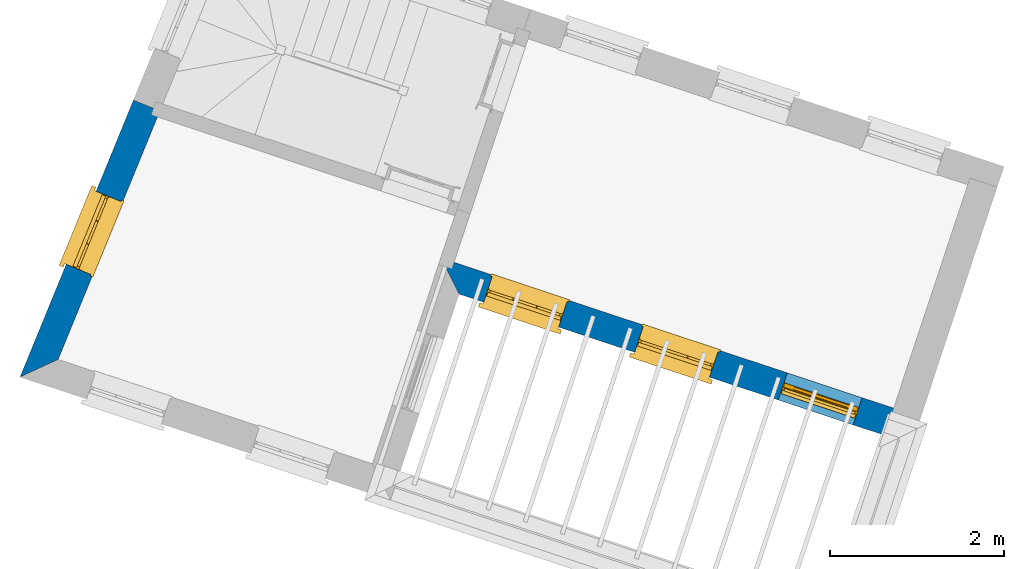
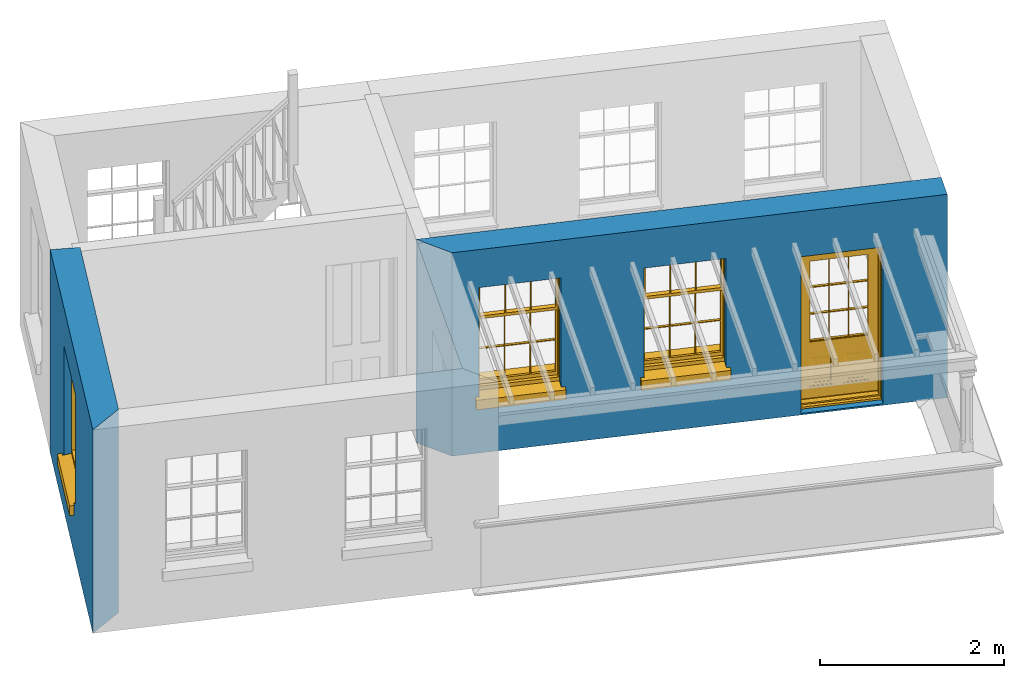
# One storey, part 3 of 6: 3 windows, 2 walls, 1 door, 4 openings.
"""IFC4 building model written with IfcOpenShell, lengths in metres."""

import ifcopenshell
import ifcopenshell.guid

model = None  # the IFC model being written
_history = None  # IfcOwnerHistory: only IFC2X3 demands one
_inside = {}  # id of a spatial element -> (the spatial element, [elements in it])
_under = {}  # id of a project, library or spatial element -> (it, [spatial elements below it])
_declared = {}  # id of a project -> (the project, [libraries it declares])
_typed = {}  # id of a type object -> (the type object, [elements of that type])
_made_of = {}  # id of a material, layer set ... -> (it, [elements and type objects made of it])


def new_model(schema):
    """Start an empty IFC model of exactly this schema.

    Asked for "IFC4X3", IfcOpenShell would pick the latest addendum, in which some entities
    have other attributes; the version numbers below select the first issue.
    IFC2X3 requires an IfcOwnerHistory on every rooted entity: one is made here for all.
    """
    global model, _history
    if schema == "IFC4X3":
        model = ifcopenshell.file(schema_version=(4, 3, 0, 0))
    else:
        model = ifcopenshell.file(schema=schema)
    _inside.clear()
    _under.clear()
    _declared.clear()
    _typed.clear()
    _made_of.clear()
    _history = None
    if model.schema == "IFC2X3":
        org = make("IfcOrganization", Name="unknown")
        user = make(
            "IfcPersonAndOrganization",
            ThePerson=make("IfcPerson", FamilyName="unknown"),
            TheOrganization=org,
        )
        app = make(
            "IfcApplication",
            ApplicationDeveloper=org,
            Version="unknown",
            ApplicationFullName="unknown",
            ApplicationIdentifier="unknown",
        )
        _history = make(
            "IfcOwnerHistory",
            OwningUser=user,
            OwningApplication=app,
            ChangeAction="ADDED",
            CreationDate=0,
        )
    return model


def make(cls, **values):
    """One entity of the class cls with the attributes given. An attribute that is None is left unset."""
    return model.create_entity(
        cls, **{name: value for name, value in values.items() if value is not None}
    )


def rooted(cls, **values):
    """An entity with a GlobalId (a new one), such as an element, a storey or a relation."""
    return make(cls, GlobalId=ifcopenshell.guid.new(), OwnerHistory=_history, **values)


def si_unit(unit_type, name, prefix=None):
    """IfcSIUnit, for example si_unit("LENGTHUNIT", "METRE", prefix="MILLI")."""
    return make("IfcSIUnit", UnitType=unit_type, Prefix=prefix, Name=name)


def assignment(units):
    """IfcUnitAssignment: the units of a project."""
    return None if units is None else make("IfcUnitAssignment", Units=units)


def point(xyz):
    """IfcCartesianPoint."""
    return None if xyz is None else make("IfcCartesianPoint", Coordinates=xyz)


def direction(xyz):
    """IfcDirection."""
    return None if xyz is None else make("IfcDirection", DirectionRatios=xyz)


def frame(location, z_axis=None, x_axis=None):
    """IfcAxis2Placement3D, a coordinate frame: its origin and axes. An axis left out is left unset."""
    return make(
        "IfcAxis2Placement3D",
        Location=point(location),
        Axis=direction(z_axis),
        RefDirection=direction(x_axis),
    )


def origin():
    """The frame at (0, 0, 0) with its axes left unset."""
    return frame((0.0, 0.0, 0.0))


def origin_with_axes():
    """The frame at (0, 0, 0) with the z axis (0, 0, 1) and the x axis (1, 0, 0) written out."""
    return frame((0.0, 0.0, 0.0), z_axis=(0.0, 0.0, 1.0), x_axis=(1.0, 0.0, 0.0))


def place(relative_to, where):
    """IfcLocalPlacement: puts the frame where relative to a parent placement (None: the world)."""
    return make(
        "IfcLocalPlacement", PlacementRelTo=relative_to, RelativePlacement=where
    )


def context(
    kind, dimensions, precision=None, world=None, true_north=None, identifier=None
):
    """IfcGeometricRepresentationContext, for example the 3D "Model" context."""
    return make(
        "IfcGeometricRepresentationContext",
        ContextIdentifier=identifier,
        ContextType=kind,
        CoordinateSpaceDimension=dimensions,
        Precision=precision,
        WorldCoordinateSystem=world,
        TrueNorth=true_north,
    )


def subcontext(parent, identifier, kind, view, scale=None):
    """IfcGeometricRepresentationSubContext, for example "Body" below "Model"."""
    return make(
        "IfcGeometricRepresentationSubContext",
        ContextIdentifier=identifier,
        ContextType=kind,
        ParentContext=parent,
        TargetScale=scale,
        TargetView=view,
    )


def project(units=None, contexts=None):
    """IfcProject with its units and contexts."""
    return rooted(
        "IfcProject",
        Name="project",
        RepresentationContexts=contexts,
        UnitsInContext=assignment(units),
    )


def spatial(cls, under=None, at=None, **own):
    """A site, building, storey or space (cls), placed at a placement, below another one or the project."""
    s = rooted(cls, ObjectPlacement=at, **own)
    if under is not None:
        _under.setdefault(under.id(), (under, []))[1].append(s)
    return s


def polyline(points):
    """IfcPolyline through the points."""
    return make("IfcPolyline", Points=[point(p) for p in points])


def outline(outer, holes=None, kind="AREA"):
    """IfcArbitraryClosedProfileDef: a profile drawn as a closed curve; with holes, ...WithVoids."""
    if holes is None:
        return make("IfcArbitraryClosedProfileDef", ProfileType=kind, OuterCurve=outer)
    return make(
        "IfcArbitraryProfileDefWithVoids",
        ProfileType=kind,
        OuterCurve=outer,
        InnerCurves=holes,
    )


def extrude(swept, where, along, depth):
    """IfcExtrudedAreaSolid: the profile swept, set in the frame where, extruded along a direction by depth."""
    return make(
        "IfcExtrudedAreaSolid",
        SweptArea=swept,
        Position=where,
        ExtrudedDirection=direction(along),
        Depth=depth,
    )


def faces_of(points, faces, orient=None, outer=None):
    """IfcFace entities. A face is a list of loops; a loop is a list of indices into points, from 0.

    orient and outer hold one flag for each loop. By default every Orientation is true, the
    first loop of a face is its IfcFaceOuterBound and the others are IfcFaceBound.
    """
    made = []
    for i, loops in enumerate(faces):
        bounds = []
        for j, loop in enumerate(loops):
            is_outer = j == 0 if outer is None else outer[i][j]
            bounds.append(
                make(
                    "IfcFaceOuterBound" if is_outer else "IfcFaceBound",
                    Bound=make("IfcPolyLoop", Polygon=[points[k] for k in loop]),
                    Orientation=True if orient is None else orient[i][j],
                )
            )
        made.append(make("IfcFace", Bounds=bounds))
    return made


def faceted_brep(points, faces, orient=None, outer=None, voids=None):
    """IfcFacetedBrep: a solid bounded by flat faces; with voids (closed shells), ...WithVoids."""
    shared = [point(p) for p in points]
    hull = make("IfcClosedShell", CfsFaces=faces_of(shared, faces, orient, outer))
    if voids is None:
        return make("IfcFacetedBrep", Outer=hull)
    return make(
        "IfcFacetedBrepWithVoids",
        Outer=hull,
        Voids=[
            make(cls, CfsFaces=faces_of(shared, fs, o, b)) for cls, fs, o, b in voids
        ],
    )


def shape(context_of_items, identifier, shape_type, items):
    """IfcShapeRepresentation: the items that make up one representation, for example the "Body"."""
    return make(
        "IfcShapeRepresentation",
        ContextOfItems=context_of_items,
        RepresentationIdentifier=identifier,
        RepresentationType=shape_type,
        Items=items,
    )


def source(mapping_origin, context_of_items, identifier, shape_type, items):
    """IfcRepresentationMap: a shape defined once, which mapped items show again and again."""
    return make(
        "IfcRepresentationMap",
        MappingOrigin=mapping_origin,
        MappedRepresentation=shape(context_of_items, identifier, shape_type, items),
    )


def transform(
    local_origin,
    x_axis=None,
    y_axis=None,
    z_axis=None,
    scale=None,
    scale2=None,
    scale3=None,
    uniform=True,
):
    """IfcCartesianTransformationOperator3D, or its non-uniform kind. x_axis, y_axis, z_axis: its Axis1, 2, 3."""
    if uniform:
        return make(
            "IfcCartesianTransformationOperator3D",
            Axis1=direction(x_axis),
            Axis2=direction(y_axis),
            LocalOrigin=point(local_origin),
            Scale=scale,
            Axis3=direction(z_axis),
        )
    return make(
        "IfcCartesianTransformationOperator3DnonUniform",
        Axis1=direction(x_axis),
        Axis2=direction(y_axis),
        LocalOrigin=point(local_origin),
        Scale=scale,
        Axis3=direction(z_axis),
        Scale2=scale2,
        Scale3=scale3,
    )


def mapped(mapping_source, mapping_target):
    """IfcMappedItem: shows the shape of a source again, moved by a transform."""
    return make(
        "IfcMappedItem", MappingSource=mapping_source, MappingTarget=mapping_target
    )


def material(Name=None, Category=None):
    """IfcMaterial."""
    return make("IfcMaterial", Name=Name, Category=Category)


def layer(
    of_material, thickness, ventilated=None, Name=None, Category=None, Priority=None
):
    """IfcMaterialLayer: one layer of a wall or slab, of a material (None: an air gap)."""
    return make(
        "IfcMaterialLayer",
        Material=of_material,
        LayerThickness=thickness,
        IsVentilated=ventilated,
        Name=Name,
        Category=Category,
        Priority=Priority,
    )


def layer_set(layers, Name=None):
    """IfcMaterialLayerSet."""
    return make("IfcMaterialLayerSet", MaterialLayers=layers, LayerSetName=Name)


def layer_usage(for_layer_set, set_direction, sense, offset, extent=None):
    """IfcMaterialLayerSetUsage: how a layer set lies in its element."""
    return make(
        "IfcMaterialLayerSetUsage",
        ForLayerSet=for_layer_set,
        LayerSetDirection=set_direction,
        DirectionSense=sense,
        OffsetFromReferenceLine=offset,
        ReferenceExtent=extent,
    )


def made_of(thing, what):
    """Note that an element or type object is made of a material, layer set ...; save() writes the relation."""
    if what is not None:
        _made_of.setdefault(what.id(), (what, []))[1].append(thing)
    return thing


def type_object(cls, material=None, **own):
    """A type object (cls), such as IfcWallType, which elements share."""
    return made_of(rooted(cls, **own), material)


def type_shapes(of_type, sources):
    """Give a type object the sources (RepresentationMaps) that its elements show as mapped items."""
    of_type.RepresentationMaps = sources


def element(
    cls,
    number,
    at=None,
    inside=None,
    cuts=None,
    type_object=None,
    material=None,
    context=None,
    identifier="Body",
    shape_type=None,
    held_by="IfcProductDefinitionShape",
    body=None,
    shapes=None,
    **own,
):
    """One element of the class cls, such as IfcWall. Its Tag is "e" and its number.

    at: its placement. inside: the storey or other place that contains it. cuts: it is an
    opening in that element (IfcRelVoidsElement). A single representation is given by context,
    identifier, shape_type and body (its items); several are given by shapes. held_by: the class
    of the entity that holds the representations. save() writes the other relations.
    """
    e = rooted(cls, Tag="e%d" % number, ObjectPlacement=at, **own)
    if body is not None:
        shapes = [shape(context, identifier, shape_type, body)]
    if shapes is not None:
        e.Representation = make(held_by, Representations=shapes)
    if inside is not None:
        _inside.setdefault(inside.id(), (inside, []))[1].append(e)
    if cuts is not None:
        rooted(
            "IfcRelVoidsElement", RelatingBuildingElement=cuts, RelatedOpeningElement=e
        )
    if type_object is not None:
        _typed.setdefault(type_object.id(), (type_object, []))[1].append(e)
    return made_of(e, material)


def fill(opening, filler):
    """IfcRelFillsElement: the door or window that sits in an opening."""
    return rooted(
        "IfcRelFillsElement",
        RelatingOpeningElement=opening,
        RelatedBuildingElement=filler,
    )


def aggregate(whole, parts):
    """IfcRelAggregates: a whole, such as a stair, and the parts it consists of."""
    return rooted("IfcRelAggregates", RelatingObject=whole, RelatedObjects=parts)


def save(model, path):
    """Write the relations noted so far, then the file.

    IfcRelAggregates (storeys below a building ...), IfcRelContainedInSpatialStructure (elements
    in a storey), IfcRelDefinesByType, IfcRelAssociatesMaterial and IfcRelDeclares: one each for
    every whole, place, type object, material and project.
    """
    for whole, parts in _under.values():
        aggregate(whole, parts)
    for where, things in _inside.values():
        rooted(
            "IfcRelContainedInSpatialStructure",
            RelatedElements=things,
            RelatingStructure=where,
        )
    for kind, things in _typed.values():
        rooted("IfcRelDefinesByType", RelatedObjects=things, RelatingType=kind)
    for what, things in _made_of.values():
        rooted("IfcRelAssociatesMaterial", RelatedObjects=things, RelatingMaterial=what)
    for by, libraries in _declared.values():
        rooted("IfcRelDeclares", RelatingContext=by, RelatedDefinitions=libraries)
    model.write(path)


model = new_model("IFC4")

# Units and contexts
model_context = context("Model", 3, world=origin_with_axes())
body_context = subcontext(model_context, "Body", "Model", "MODEL_VIEW")
ifc_project = project(units=[si_unit("PLANEANGLEUNIT", "RADIAN"), si_unit("MASSUNIT", "GRAM", prefix="KILO"), si_unit("FORCEUNIT", "NEWTON", prefix="KILO"), si_unit("LENGTHUNIT", "METRE"), si_unit("AREAUNIT", "SQUARE_METRE"), si_unit("VOLUMEUNIT", "CUBIC_METRE")], contexts=[model_context, model_context])

# Sites, building, storey
site_1_placement = place(None, origin_with_axes())
site_1 = spatial("IfcSite", under=ifc_project, at=site_1_placement, Name="Tamar")
site_2_placement = place(site_1_placement, origin_with_axes())
site_2 = spatial("IfcSite", under=site_1, at=site_2_placement, Name="Site plot-16", CompositionType="ELEMENT")
building_placement = place(None, origin_with_axes())
building = spatial("IfcBuilding", under=site_2, at=building_placement, Name="Building plot-16", CompositionType="ELEMENT")
storey_placement = place(None, frame((0.0, 0.0, 29.45), z_axis=(0.0, 0.0, 1.0), x_axis=(1.0, 0.0, 0.0)))
storey = spatial("IfcBuildingStorey", under=building, at=storey_placement, Name="plot-16 1", CompositionType="ELEMENT", Elevation=29.45)

# Wall, opening, window
ifc_material = material(Name="Masonry")
ifc_layer = layer(ifc_material, 0.33, ventilated=False)
ifc_layer_set = layer_set([ifc_layer], Name="exterior_0.08_0.25")
ifc_layer_usage = layer_usage(ifc_layer_set, "AXIS2", "POSITIVE", -0.25)
wall_type = type_object("IfcWallType", Name="exterior_0.08_0.25", PredefinedType="SOLIDWALL", material=ifc_layer_set)
wall_1_placement = place(storey_placement, frame((253.743066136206, 297.654043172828, 0.0), z_axis=(0.0, 0.0, 1.0), x_axis=(-0.378975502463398, -0.925406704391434, 0.0)))
wall_1 = element("IfcWall", 1, at=wall_1_placement, inside=storey, type_object=wall_type, material=ifc_layer_usage, Name="exterior", context=body_context, shape_type="SweptSolid", body=[
    extrude(outline(polyline([(-2.28843251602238e-15, 0.0800000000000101), (1.68064262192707e-15, -0.249999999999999), (3.44951576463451, -0.250000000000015), (3.0962088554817, 0.0800000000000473), (-2.28843251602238e-15, 0.0800000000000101)])), origin_with_axes(), (0.0, 0.0, 1.0), 2.7),
])
opening_1_placement = place(wall_1_placement, frame((1.13592950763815, 0.0, 0.75)))
opening_1 = element("IfcOpeningElement", 2, at=opening_1_placement, cuts=wall_1, Name="My Opening", ObjectType="Opening", context=body_context, shape_type="SweptSolid", body=[
    extrude(outline(polyline([(0.0, -0.269999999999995), (0.910000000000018, -0.269999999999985), (0.909999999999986, 1.1), (-3.30846461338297e-14, 1.09999999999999), (0.0, -0.269999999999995)])), origin_with_axes(), (0.0, 0.0, 1.0), 1.445),
])
window_type = type_object("IfcWindowType", Name="sash_shorter", PartitioningType="DOUBLE_PANEL_HORIZONTAL", PredefinedType="NOTDEFINED")
shared_shape_1 = source(origin(), body_context, "Body", "Brep", [
    faceted_brep([(0.876875, 0.145, 0.999097), (0.876875, 0.145, 1.411875), (0.9, 0.145, 1.435), (0.033125, 0.145, 1.411875), (0.033125, 0.145, 0.999097), (0.01, 0.145, 1.435), (0.033125, 0.115, 1.411875), (0.01, 0.115, 1.435), (0.033125, 0.115, 0.999097), (0.876875, 0.115, 1.411875), (0.876875, 0.115, 0.999097), (0.9, 0.115, 1.435), (0.033125, 0.145, 0.960972), (0.01, 0.145, 0.960972), (0.033125, 0.145, 0.548195), (0.876875, 0.145, 0.960972), (0.876875, 0.145, 0.548195), (0.9, 0.145, 0.960972), (0.876875, 0.145, 0.538195), (0.876875, 0.145, 0.125417), (0.9, 0.145, 0.077167), (0.033125, 0.145, 0.125417), (0.033125, 0.145, 0.538195), (0.01, 0.145, 0.077167), (0.9, 0.115, 0.960972), (0.01, 0.115, 0.960972), (-0.0425, 0.0, 0.01), (-0.0425, -0.05, 0.001667), (0.0, 0.0, 0.01), (0.9525, 0.0, 0.01), (0.91, 0.0, 0.01), (0.9525, -0.05, 0.001667), (-0.02, 0.33, 0.077167), (0.0, 0.33, 0.077167), (-0.02, 0.36, 0.077167), (0.0, 0.19, 0.077167), (0.01, 0.19, 0.077167), (0.91, 0.19, 0.077167), (0.91, 0.33, 0.077167), (0.9, 0.19, 0.077167), (0.93, 0.33, 0.077167), (0.93, 0.36, 0.077167), (0.01, 0.145, 0.999097), (0.01, 0.175, 0.999097), (0.9, 0.145, 0.999097), (0.9, 0.175, 0.999097), (0.876875, 0.175, 0.125417), (0.876875, 0.175, 0.538195), (0.9, 0.175, 0.077167), (0.876875, 0.175, 0.548195), (0.876875, 0.175, 0.960972), (0.033125, 0.175, 0.125417), (0.01, 0.175, 0.077167), (0.033125, 0.175, 0.538195), (0.033125, 0.175, 0.960972), (0.033125, 0.175, 0.548195), (-0.02, 0.33, 0.052167), (-0.02, 0.36, 0.052167), (0.93, 0.36, 0.052167), (0.93, 0.33, 0.052167), (0.91, 0.33, 0.052167), (0.0, 0.33, 0.052167), (0.91, 0.1, 0.026667), (0.0, 0.1, 0.026667), (-0.0425, -0.05, -0.123333), (0.9525, -0.05, -0.123333), (-0.0425, 0.0, -0.123333), (0.9525, 0.0, -0.123333), (0.01, 0.19, 1.435), (0.9, 0.19, 1.435), (0.0, 0.19, 1.445), (0.91, 0.19, 1.445), (0.01, 0.1, 0.077167), (0.9, 0.1, 0.077167), (0.592292, 0.145, 0.125417), (0.592292, 0.175, 0.125417), (0.317708, 0.175, 0.125417), (0.317708, 0.145, 0.125417), (0.592292, 0.145, 0.548195), (0.317708, 0.145, 0.548195), (0.317708, 0.145, 0.538195), (0.592292, 0.145, 0.538195), (0.592292, 0.175, 0.548195), (0.317708, 0.175, 0.548195), (0.602292, 0.175, 0.548195), (0.602292, 0.145, 0.548195), (0.317708, 0.175, 0.538195), (0.307708, 0.175, 0.125417), (0.307708, 0.175, 0.538195), (0.602292, 0.175, 0.538195), (0.602292, 0.175, 0.125417), (0.592292, 0.175, 0.538195), (0.307708, 0.175, 0.548195), (0.317708, 0.175, 0.960972), (0.307708, 0.175, 0.960972), (0.602292, 0.175, 0.960972), (0.592292, 0.175, 0.960972), (0.307708, 0.145, 0.538195), (0.307708, 0.145, 0.125417), (0.307708, 0.145, 0.548195), (0.307708, 0.145, 0.960972), (0.592292, 0.145, 0.960972), (0.317708, 0.145, 0.960972), (0.602292, 0.145, 0.960972), (0.602292, 0.145, 0.538195), (0.602292, 0.145, 0.125417), (0.317708, 0.115, 1.411875), (0.307708, 0.115, 1.411875), (0.307708, 0.115, 0.999097), (0.317708, 0.115, 0.999097), (0.602292, 0.115, 1.411875), (0.592292, 0.115, 1.411875), (0.592292, 0.115, 0.999097), (0.602292, 0.115, 0.999097), (0.317708, 0.145, 0.999097), (0.307708, 0.145, 0.999097), (0.307708, 0.145, 1.411875), (0.317708, 0.145, 1.411875), (0.602292, 0.145, 0.999097), (0.592292, 0.145, 0.999097), (0.592292, 0.145, 1.411875), (0.602292, 0.145, 1.411875), (0.91, 0.1, 1.445), (0.9, 0.1, 1.435), (0.01, 0.1, 1.435), (0.0, 0.1, 1.445), (0.91, 0.0, 0.0), (0.0, 0.0, 0.0), (0.91, 0.33, 0.0), (0.0, 0.33, 0.0)], [[[0, 1, 2]], [[3, 4, 5]], [[6, 7, 8]], [[9, 10, 11]], [[12, 13, 14]], [[15, 16, 17]], [[18, 19, 20]], [[21, 22, 23]], [[24, 15, 17]], [[13, 12, 25]], [[26, 27, 28]], [[29, 30, 31]], [[32, 33, 34]], [[35, 36, 33]], [[37, 38, 39]], [[40, 41, 38]], [[42, 4, 43]], [[44, 45, 0]], [[46, 47, 48]], [[49, 50, 45]], [[51, 52, 53]], [[54, 55, 43]], [[38, 33, 36, 39]], [[41, 34, 33, 38]], [[56, 32, 34, 57]], [[57, 34, 41, 58]], [[58, 41, 40, 59]], [[57, 58, 60, 61]], [[52, 48, 39, 36]], [[62, 63, 28, 30]], [[27, 31, 30, 28]], [[27, 64, 65, 31]], [[66, 67, 65, 64]], [[2, 5, 68, 69]], [[68, 70, 71, 69]], [[20, 23, 72, 73]], [[73, 72, 63, 62]], [[74, 75, 76, 77]], [[78, 79, 80, 81]], [[78, 82, 83, 79]], [[16, 49, 84, 85]], [[86, 76, 87, 88]], [[89, 90, 75, 91]], [[92, 88, 53, 55]], [[82, 91, 86, 83]], [[93, 83, 92, 94]], [[95, 84, 82, 96]], [[89, 84, 49, 47]], [[97, 88, 87, 98]], [[22, 53, 88, 97]], [[81, 91, 75, 74]], [[80, 86, 91, 81]], [[77, 76, 86, 80]], [[99, 92, 55, 14]], [[100, 94, 92, 99]], [[101, 96, 82, 78]], [[79, 83, 93, 102]], [[85, 84, 95, 103]], [[104, 89, 47, 18]], [[105, 90, 89, 104]], [[104, 18, 16, 85]], [[80, 97, 98, 77]], [[104, 81, 74, 105]], [[103, 101, 78, 85]], [[99, 14, 22, 97]], [[102, 100, 99, 79]], [[106, 107, 108, 109]], [[110, 111, 112, 113]], [[114, 115, 116, 117]], [[118, 119, 120, 121]], [[107, 116, 115, 108]], [[111, 120, 119, 112]], [[109, 114, 117, 106]], [[113, 118, 121, 110]], [[85, 78, 81, 104]], [[84, 89, 91, 82]], [[83, 86, 88, 92]], [[79, 99, 97, 80]], [[109, 112, 119, 114]], [[102, 93, 96, 101]], [[106, 117, 120, 111]], [[98, 87, 51, 21]], [[6, 3, 116, 107]], [[110, 121, 1, 9]], [[19, 46, 90, 105]], [[26, 66, 64, 27]], [[29, 31, 65, 67]], [[25, 24, 112, 109]], [[11, 7, 106, 111]], [[75, 48, 52, 76]], [[43, 45, 96, 93]], [[45, 43, 114, 119]], [[5, 2, 120, 117]], [[24, 25, 102, 101]], [[42, 5, 4]], [[2, 44, 0]], [[49, 45, 48, 47]], [[52, 43, 55, 53]], [[14, 13, 23, 22]], [[20, 17, 16, 18]], [[24, 11, 10]], [[25, 8, 7]], [[8, 4, 3, 6]], [[9, 1, 0, 10]], [[15, 50, 49, 16]], [[18, 47, 46, 19]], [[21, 51, 53, 22]], [[14, 55, 54, 12]], [[44, 2, 69, 45]], [[68, 5, 42, 43]], [[36, 35, 70, 68]], [[39, 69, 71, 37]], [[62, 122, 123, 73]], [[63, 72, 124, 125]], [[8, 108, 115, 4]], [[113, 10, 0, 118]], [[94, 100, 12, 54]], [[17, 20, 73, 24]], [[72, 23, 13, 25]], [[52, 36, 68, 43]], [[69, 39, 48, 45]], [[11, 24, 73, 123]], [[7, 124, 72, 25]], [[23, 77, 98]], [[98, 21, 23]], [[105, 74, 20]], [[20, 19, 105]], [[20, 74, 77, 23]], [[113, 112, 24]], [[24, 10, 113]], [[25, 109, 108]], [[108, 8, 25]], [[110, 9, 11]], [[11, 111, 110]], [[7, 6, 107]], [[107, 106, 7]], [[5, 117, 116]], [[116, 3, 5]], [[121, 120, 2]], [[2, 1, 121]], [[11, 123, 124, 7]], [[122, 125, 124, 123]], [[43, 93, 94]], [[94, 54, 43]], [[96, 45, 95]], [[50, 95, 45]], [[15, 103, 95, 50]], [[48, 75, 90]], [[90, 46, 48]], [[87, 76, 52]], [[52, 51, 87]], [[103, 15, 24]], [[24, 101, 103]], [[100, 102, 25]], [[25, 12, 100]], [[115, 114, 43]], [[43, 4, 115]], [[118, 0, 45]], [[45, 119, 118]], [[71, 70, 125, 122]], [[70, 35, 63, 125]], [[122, 62, 37, 71]], [[126, 67, 66, 127]], [[60, 58, 59]], [[38, 60, 59, 40]], [[61, 56, 57]], [[32, 56, 61, 33]], [[61, 60, 128, 129]], [[62, 60, 38, 37]], [[126, 128, 60, 62]], [[33, 61, 63, 35]], [[61, 129, 127, 63]], [[128, 126, 127, 129]], [[28, 127, 66, 26]], [[63, 127, 28]], [[29, 67, 126, 30]], [[30, 126, 62]]]),
])
type_shapes(window_type, [shared_shape_1])
window_1_placement = place(storey_placement, frame((253.0627168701, 296.705169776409, 0.75), z_axis=(0.0, 0.0, 1.0), x_axis=(-0.34486770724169, -0.842120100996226, 0.0)))
window_1 = element("IfcWindow", 3, at=window_1_placement, inside=storey, type_object=window_type, Name="bedroom outside window", OverallHeight=1.445, OverallWidth=0.91, context=body_context, shape_type="MappedRepresentation", body=[
    mapped(shared_shape_1, transform((0.0, 0.0, 0.0), scale=1.0)),
])
fill(opening_1, window_1)

# Wall, openings, door, windows
wall_2_placement = place(storey_placement, frame((257.105852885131, 295.828897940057, 0.0), z_axis=(0.0, 0.0, 1.0), x_axis=(0.949078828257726, -0.31503869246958, 0.0)))
wall_2 = element("IfcWall", 4, at=wall_2_placement, inside=storey, type_object=wall_type, material=ifc_layer_usage, Name="exterior", context=body_context, shape_type="SweptSolid", body=[
    extrude(outline(polyline([(-0.0799999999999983, 0.0799999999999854), (0.250000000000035, -0.250000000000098), (5.74899441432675, -0.250000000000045), (5.74899441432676, 0.0799999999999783), (-0.0799999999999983, 0.0799999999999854)])), origin_with_axes(), (0.0, 0.0, 1.0), 2.7),
])
opening_2_placement = place(wall_2_placement, frame((0.54999999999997, 0.0, 0.75)))
opening_2 = element("IfcOpeningElement", 5, at=opening_2_placement, cuts=wall_2, Name="My Opening", ObjectType="Opening", context=body_context, shape_type="SweptSolid", body=[
    extrude(outline(polyline([(0.0, -0.270000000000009), (0.910000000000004, -0.270000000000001), (0.909999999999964, 1.09999999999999), (-4.01900734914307e-14, 1.09999999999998), (0.0, -0.270000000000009)])), origin_with_axes(), (0.0, 0.0, 1.0), 1.445),
])
opening_3_placement = place(wall_2_placement, frame((2.3829981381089, 0.0, 0.75)))
opening_3 = element("IfcOpeningElement", 6, at=opening_3_placement, cuts=wall_2, Name="My Opening", ObjectType="Opening", context=body_context, shape_type="SweptSolid", body=[
    extrude(outline(polyline([(0.0, -0.270000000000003), (0.910000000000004, -0.269999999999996), (0.909999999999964, 1.09999999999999), (-3.99680288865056e-14, 1.09999999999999), (0.0, -0.270000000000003)])), origin_with_axes(), (0.0, 0.0, 1.0), 1.445),
])
opening_4_placement = place(wall_2_placement, frame((4.12749534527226, 0.0, 0.0199999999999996)))
opening_4 = element("IfcOpeningElement", 7, at=opening_4_placement, cuts=wall_2, Name="My Opening", ObjectType="Opening", context=body_context, shape_type="SweptSolid", body=[
    extrude(outline(polyline([(0.0, -0.270000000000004), (0.910000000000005, -0.269999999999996), (0.909999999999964, 1.09999999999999), (-3.90798504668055e-14, 1.09999999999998), (0.0, -0.270000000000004)])), origin_with_axes(), (0.0, 0.0, 1.0), 2.08),
])
door_type = type_object("IfcDoorType", Name="door_panelled", OperationType="SINGLE_SWING_LEFT", PredefinedType="NOTDEFINED")
shared_shape_2 = source(origin(), body_context, "Body", "Brep", [
    faceted_brep([(0.545, 0.195, 0.265), (0.745, 0.195, 0.265), (0.745, 0.2, 0.265), (0.545, 0.2, 0.265), (0.745, 0.2, 0.58), (0.545, 0.2, 0.58), (0.545, 0.195, 0.58), (0.515, 0.19, 0.235), (0.775, 0.19, 0.235), (0.745, 0.195, 0.58), (0.515, 0.19, 0.61), (0.515, 0.185, 0.235), (0.775, 0.185, 0.235), (0.775, 0.19, 0.61), (0.515, 0.185, 0.61), (0.785, 0.185, 0.225), (0.505, 0.185, 0.225), (0.775, 0.185, 0.61), (0.505, 0.185, 0.62), (0.785, 0.185, 0.62), (0.505, 0.18, 0.225), (0.785, 0.18, 0.225), (0.505, 0.18, 0.62), (0.785, 0.18, 0.62), (0.883, 0.18, 0.075), (0.898, 0.18, 0.075), (0.405, 0.18, 0.62), (0.405, 0.18, 0.225), (0.027, 0.18, 0.075), (0.785, 0.18, 0.82), (0.125, 0.18, 0.82), (0.405, 0.185, 0.62), (0.405, 0.185, 0.225), (0.898, 0.18, 2.068), (0.027, 0.17, 0.075), (0.883, 0.17, 0.075), (0.125, 0.18, 0.225), (0.012, 0.18, 0.075), (0.785, 0.19, 0.82), (0.125, 0.19, 0.82), (0.125, 0.18, 0.62), (0.125, 0.185, 0.62), (0.395, 0.185, 0.61), (0.395, 0.185, 0.235), (0.125, 0.185, 0.225), (0.785, 0.18, 1.895), (0.027, 0.14, 0.045), (0.883, 0.14, 0.045), (0.558333, 0.19, 0.83), (0.351667, 0.19, 0.83), (0.125, 0.18, 1.895), (0.125, 0.19, 1.895), (0.785, 0.19, 1.895), (0.012, 0.18, 2.068), (0.135, 0.185, 0.61), (0.395, 0.19, 0.61), (0.395, 0.19, 0.235), (0.135, 0.185, 0.235), (0.027, 0.14, 0.027), (0.883, 0.14, 0.027), (0.568333, 0.19, 0.83), (0.558333, 0.22, 0.83), (0.351667, 0.22, 0.83), (0.341667, 0.19, 0.83), (0.135, 0.19, 1.185), (0.135, 0.19, 1.53), (0.775, 0.19, 1.53), (0.775, 0.19, 1.185), (0.135, 0.19, 0.61), (0.365, 0.195, 0.58), (0.365, 0.195, 0.265), (0.135, 0.19, 0.235), (0.568333, 0.19, 1.175), (0.558333, 0.19, 1.175), (0.775, 0.19, 0.83), (0.558333, 0.22, 1.175), (0.785, 0.22, 0.82), (0.125, 0.22, 0.82), (0.351667, 0.22, 1.175), (0.351667, 0.19, 1.175), (0.341667, 0.19, 1.175), (0.135, 0.19, 0.83), (0.135, 0.19, 1.175), (0.135, 0.22, 1.185), (0.135, 0.22, 1.53), (0.135, 0.19, 1.54), (0.351667, 0.19, 1.885), (0.558333, 0.19, 1.885), (0.775, 0.22, 1.53), (0.775, 0.22, 1.185), (0.775, 0.19, 1.175), (0.775, 0.19, 1.54), (0.165, 0.195, 0.58), (0.365, 0.2, 0.58), (0.365, 0.2, 0.265), (0.165, 0.195, 0.265), (0.568333, 0.22, 0.83), (0.568333, 0.22, 1.175), (0.568333, 0.19, 1.185), (0.558333, 0.19, 1.185), (0.775, 0.22, 0.83), (0.785, 0.23, 0.82), (0.125, 0.23, 0.82), (0.341667, 0.22, 0.83), (0.341667, 0.22, 1.175), (0.351667, 0.19, 1.185), (0.341667, 0.19, 1.185), (0.135, 0.22, 0.83), (0.341667, 0.22, 1.185), (0.125, 0.22, 1.895), (0.341667, 0.22, 1.53), (0.341667, 0.19, 1.53), (0.135, 0.19, 1.885), (0.341667, 0.19, 1.54), (0.341667, 0.19, 1.885), (0.558333, 0.22, 1.885), (0.351667, 0.22, 1.885), (0.568333, 0.19, 1.885), (0.785, 0.22, 1.895), (0.568333, 0.22, 1.185), (0.568333, 0.19, 1.53), (0.568333, 0.22, 1.53), (0.568333, 0.19, 1.54), (0.775, 0.19, 1.885), (0.165, 0.2, 0.58), (0.165, 0.2, 0.265), (0.775, 0.22, 1.175), (0.558333, 0.19, 1.53), (0.351667, 0.22, 1.185), (0.558333, 0.22, 1.185), (0.505, 0.23, 0.62), (0.405, 0.23, 0.62), (0.125, 0.23, 1.895), (0.785, 0.23, 1.895), (0.351667, 0.19, 1.53), (0.135, 0.22, 1.175), (0.135, 0.22, 1.54), (0.341667, 0.22, 1.54), (0.135, 0.22, 1.885), (0.351667, 0.19, 1.54), (0.558333, 0.22, 1.54), (0.558333, 0.19, 1.54), (0.351667, 0.22, 1.54), (0.775, 0.22, 1.54), (0.568333, 0.22, 1.54), (0.775, 0.22, 1.885), (0.558333, 0.22, 1.53), (0.405, 0.23, 0.225), (0.505, 0.23, 0.225), (0.125, 0.23, 0.62), (0.785, 0.23, 0.62), (0.012, 0.23, 2.068), (0.898, 0.23, 2.068), (0.351667, 0.22, 1.53), (0.341667, 0.22, 1.885), (0.568333, 0.22, 1.885), (0.405, 0.225, 0.225), (0.405, 0.225, 0.62), (0.505, 0.225, 0.62), (0.505, 0.225, 0.225), (0.898, 0.23, 0.027), (0.012, 0.23, 0.027), (0.125, 0.225, 0.62), (0.785, 0.225, 0.62), (0.395, 0.225, 0.235), (0.395, 0.225, 0.61), (0.125, 0.23, 0.225), (0.125, 0.225, 0.225), (0.515, 0.225, 0.61), (0.515, 0.225, 0.235), (0.785, 0.23, 0.225), (0.785, 0.225, 0.225), (0.135, 0.225, 0.61), (0.775, 0.225, 0.61), (0.135, 0.225, 0.235), (0.395, 0.22, 0.235), (0.395, 0.22, 0.61), (0.515, 0.22, 0.61), (0.515, 0.22, 0.235), (0.775, 0.225, 0.235), (0.135, 0.22, 0.61), (0.775, 0.22, 0.61), (0.135, 0.22, 0.235), (0.365, 0.215, 0.265), (0.365, 0.215, 0.58), (0.545, 0.215, 0.58), (0.545, 0.215, 0.265), (0.775, 0.22, 0.235), (0.165, 0.215, 0.58), (0.745, 0.215, 0.58), (0.165, 0.215, 0.265), (0.365, 0.21, 0.58), (0.365, 0.21, 0.265), (0.545, 0.21, 0.58), (0.545, 0.21, 0.265), (0.745, 0.215, 0.265), (0.165, 0.21, 0.58), (0.745, 0.21, 0.58), (0.165, 0.21, 0.265), (0.745, 0.21, 0.265), (0.885, 0.178, 0.025), (0.025, 0.178, 0.025), (0.025, 0.15, 0.025), (0.885, 0.15, 0.025), (0.9, 0.23, 0.025), (0.01, 0.23, 0.025), (0.9, 0.178, 0.025), (0.91, 0.23, 0.0), (0.0, 0.23, 0.0), (0.01, 0.178, 0.025), (0.9, 0.178, 2.07), (0.9, 0.23, 2.07), (0.885, 0.178, 2.055), (0.91, 0.23, 2.08), (0.01, 0.23, 2.07), (0.0, 0.23, 2.08), (0.01, 0.178, 2.07), (0.025, 0.178, 2.055), (0.0, 0.1, 2.08), (0.91, 0.1, 2.08), (0.01, 0.1, 2.07), (0.9, 0.1, 2.07), (0.01, 0.15, 2.07), (0.9, 0.15, 2.07), (0.0, 0.1, 0.0), (0.91, 0.1, 0.0), (0.01, 0.1, 0.025), (0.9, 0.1, 0.025), (0.01, 0.15, 0.025), (0.025, 0.15, 2.055), (0.9, 0.15, 0.025), (0.885, 0.15, 2.055), (0.898, 0.18, 0.027), (0.012, 0.18, 0.027), (0.883, 0.18, 0.027), (0.027, 0.18, 0.027)], [[[0, 1, 2, 3]], [[2, 4, 5, 3]], [[0, 3, 5, 6]], [[1, 0, 7, 8]], [[9, 4, 2, 1]], [[9, 6, 5, 4]], [[0, 6, 10, 7]], [[8, 7, 11, 12]], [[8, 13, 9, 1]], [[13, 10, 6, 9]], [[7, 10, 14, 11]], [[15, 12, 11, 16]], [[12, 17, 13, 8]], [[17, 14, 10, 13]], [[18, 16, 11, 14]], [[15, 19, 17, 12]], [[15, 16, 20, 21]], [[14, 17, 19, 18]], [[16, 18, 22, 20]], [[21, 23, 19, 15]], [[24, 25, 21, 20]], [[23, 22, 18, 19]], [[20, 22, 26, 27]], [[23, 21, 25]], [[28, 24, 20, 27]], [[22, 23, 29]], [[29, 30, 26, 22]], [[27, 26, 31, 32]], [[23, 25, 33, 29]], [[34, 35, 24, 28]], [[28, 27, 36, 37]], [[38, 39, 30, 29]], [[26, 30, 40]], [[26, 40, 41, 31]], [[42, 43, 32, 31]], [[32, 44, 36, 27]], [[33, 45, 29]], [[46, 47, 35, 34]], [[36, 40, 37]], [[39, 38, 48, 49]], [[50, 30, 39, 51]], [[29, 45, 52, 38]], [[53, 37, 40, 30]], [[44, 41, 40, 36]], [[31, 41, 54, 42]], [[43, 42, 55, 56]], [[57, 44, 32, 43]], [[50, 45, 33, 53]], [[47, 46, 58, 59]], [[60, 48, 38]], [[49, 48, 61, 62]], [[49, 63, 39]], [[50, 53, 30]], [[51, 39, 64, 65]], [[45, 50, 51, 52]], [[66, 67, 38, 52]], [[57, 54, 41, 44]], [[42, 54, 68, 55]], [[56, 55, 69, 70]], [[56, 71, 57, 43]], [[60, 72, 73, 48]], [[60, 38, 74]], [[48, 73, 75, 61]], [[76, 77, 62, 61]], [[62, 78, 79, 49]], [[49, 79, 80, 63]], [[63, 81, 39]], [[82, 64, 39]], [[65, 64, 83, 84]], [[85, 51, 65]], [[52, 51, 86, 87]], [[88, 89, 67, 66]], [[90, 38, 67]], [[91, 66, 52]], [[71, 68, 54, 57]], [[55, 68, 92, 69]], [[69, 93, 94, 70]], [[70, 95, 71, 56]], [[96, 97, 72, 60]], [[73, 72, 98, 99]], [[74, 38, 90]], [[100, 96, 60, 74]], [[75, 73, 79, 78]], [[61, 75, 97, 96]], [[101, 102, 77, 76]], [[77, 103, 62]], [[96, 76, 61]], [[103, 104, 78, 62]], [[80, 79, 105, 106]], [[63, 80, 104, 103]], [[81, 63, 103, 107]], [[81, 82, 39]], [[106, 64, 82, 80]], [[106, 108, 83, 64]], [[84, 83, 77, 109]], [[110, 111, 65, 84]], [[112, 51, 85]], [[113, 85, 65, 111]], [[114, 86, 51]], [[115, 87, 86, 116]], [[117, 52, 87]], [[118, 76, 89, 88]], [[119, 98, 67, 89]], [[120, 121, 88, 66]], [[67, 98, 72, 90]], [[91, 122, 120, 66]], [[91, 52, 123]], [[95, 92, 68, 71]], [[69, 92, 124, 93]], [[94, 93, 124, 125]], [[94, 125, 95, 70]], [[72, 97, 126, 90]], [[127, 99, 98, 120]], [[99, 105, 79, 73]], [[74, 90, 126, 100]], [[96, 100, 76]], [[128, 129, 75, 78]], [[97, 75, 129, 119]], [[130, 131, 102, 101]], [[109, 77, 102, 132]], [[133, 101, 76, 118]], [[77, 107, 103]], [[78, 104, 108, 128]], [[111, 106, 105, 134]], [[104, 80, 82, 135]], [[107, 135, 82, 81]], [[110, 108, 106, 111]], [[104, 135, 83, 108]], [[83, 135, 77]], [[136, 84, 109]], [[110, 84, 136, 137]], [[114, 51, 112]], [[85, 136, 138, 112]], [[113, 137, 136, 85]], [[111, 134, 139, 113]], [[86, 114, 113, 139]], [[140, 141, 87, 115]], [[139, 142, 116, 86]], [[109, 118, 115, 116]], [[117, 123, 52]], [[117, 87, 141, 122]], [[126, 89, 76]], [[143, 118, 88]], [[120, 98, 119, 121]], [[119, 89, 126, 97]], [[144, 143, 88, 121]], [[144, 122, 91, 143]], [[127, 120, 122, 141]], [[143, 91, 123, 145]], [[124, 92, 95, 125]], [[146, 129, 99, 127]], [[99, 129, 128, 105]], [[100, 126, 76]], [[121, 119, 129, 146]], [[147, 131, 130, 148]], [[131, 149, 102]], [[130, 101, 150]], [[102, 151, 132]], [[118, 109, 132, 133]], [[101, 133, 152]], [[107, 77, 135]], [[153, 128, 108, 110]], [[134, 105, 128, 153]], [[109, 138, 136]], [[153, 110, 137, 142]], [[154, 114, 112, 138]], [[137, 113, 114, 154]], [[141, 139, 134, 127]], [[141, 140, 142, 139]], [[144, 140, 115, 155]], [[142, 137, 154, 116]], [[155, 115, 118]], [[116, 154, 109]], [[117, 155, 145, 123]], [[122, 144, 155, 117]], [[143, 145, 118]], [[121, 146, 140, 144]], [[146, 127, 134, 153]], [[156, 157, 131, 147]], [[148, 130, 158, 159]], [[148, 160, 161, 147]], [[157, 162, 149, 131]], [[161, 151, 102, 149]], [[101, 152, 160, 150]], [[163, 158, 130, 150]], [[151, 152, 133, 132]], [[154, 138, 109]], [[142, 140, 146, 153]], [[145, 155, 118]], [[157, 156, 164, 165]], [[147, 166, 167, 156]], [[168, 169, 159, 158]], [[170, 148, 159, 171]], [[148, 170, 160]], [[166, 147, 161]], [[172, 162, 157, 165]], [[166, 149, 162, 167]], [[166, 161, 149]], [[150, 160, 170]], [[163, 173, 168, 158]], [[171, 163, 150, 170]], [[174, 164, 156, 167]], [[175, 176, 165, 164]], [[169, 168, 177, 178]], [[171, 159, 169, 179]], [[167, 162, 172, 174]], [[176, 180, 172, 165]], [[179, 173, 163, 171]], [[181, 177, 168, 173]], [[164, 174, 182, 175]], [[183, 184, 176, 175]], [[178, 177, 185, 186]], [[179, 169, 178, 187]], [[174, 172, 180, 182]], [[184, 188, 180, 176]], [[187, 181, 173, 179]], [[189, 185, 177, 181]], [[175, 182, 190, 183]], [[191, 184, 183, 192]], [[185, 193, 194, 186]], [[187, 178, 186, 195]], [[182, 180, 188, 190]], [[191, 196, 188, 184]], [[195, 189, 181, 187]], [[197, 193, 185, 189]], [[183, 190, 198, 192]], [[198, 196, 191, 192]], [[194, 193, 197, 199]], [[195, 186, 194, 199]], [[188, 196, 198, 190]], [[197, 189, 195, 199]], [[200, 201, 202, 203]], [[201, 200, 204, 205]], [[206, 204, 200]], [[204, 207, 208, 205]], [[209, 201, 205]], [[210, 211, 204, 206]], [[206, 200, 212, 210]], [[211, 213, 207, 204]], [[214, 205, 208, 215]], [[216, 217, 201, 209]], [[205, 214, 216, 209]], [[216, 214, 211, 210]], [[210, 212, 217, 216]], [[214, 215, 213, 211]], [[218, 219, 213, 215]], [[219, 218, 220, 221]], [[221, 220, 222, 223]], [[215, 208, 224, 218]], [[225, 224, 208, 207]], [[224, 226, 220, 218]], [[224, 225, 227, 226]], [[219, 225, 207, 213]], [[228, 222, 220, 226]], [[219, 221, 227, 225]], [[226, 227, 203, 202]], [[202, 229, 222, 228]], [[228, 226, 202]], [[227, 221, 223, 230]], [[230, 203, 227]], [[217, 229, 202, 201]], [[231, 223, 222, 229]], [[230, 223, 231, 203]], [[231, 229, 217, 212]], [[212, 200, 203, 231]], [[33, 152, 151, 53]], [[25, 160, 152, 33]], [[161, 37, 53, 151]], [[232, 160, 25]], [[161, 233, 37]], [[160, 232, 234]], [[24, 234, 232, 25]], [[233, 161, 235]], [[37, 233, 235, 28]], [[161, 160, 234, 235]], [[35, 47, 234, 24]], [[28, 235, 46, 34]], [[58, 235, 234, 59]], [[59, 234, 47]], [[58, 46, 235]]]),
])
type_shapes(door_type, [shared_shape_2])
door_placement = place(storey_placement, frame((260.938110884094, 294.272325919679, 0.0199999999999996), z_axis=(0.0, 0.0, 1.0), x_axis=(0.863661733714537, -0.286685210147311, 0.0)))
door = element("IfcDoor", 8, at=door_placement, inside=storey, type_object=door_type, Name="bedroom outside door", OverallHeight=2.08, OverallWidth=0.91, context=body_context, shape_type="MappedRepresentation", body=[
    mapped(shared_shape_2, transform((0.0, 0.0, 0.0), scale=1.0)),
])
fill(opening_4, door)
window_2_placement = place(storey_placement, frame((257.542785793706, 295.399375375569, 0.75), z_axis=(0.0, 0.0, 1.0), x_axis=(0.863661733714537, -0.286685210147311, 0.0)))
window_2 = element("IfcWindow", 9, at=window_2_placement, inside=storey, type_object=window_type, Name="bedroom outside window", OverallHeight=1.445, OverallWidth=0.91, context=body_context, shape_type="MappedRepresentation", body=[
    mapped(shared_shape_1, transform((0.0, 0.0, 0.0), scale=1.0)),
])
fill(opening_2, window_2)
window_3_placement = place(storey_placement, frame((259.282445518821, 294.82191003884, 0.75), z_axis=(0.0, 0.0, 1.0), x_axis=(0.863661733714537, -0.286685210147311, 0.0)))
window_3 = element("IfcWindow", 10, at=window_3_placement, inside=storey, type_object=window_type, Name="bedroom outside window", OverallHeight=1.445, OverallWidth=0.91, context=body_context, shape_type="MappedRepresentation", body=[
    mapped(shared_shape_1, transform((0.0, 0.0, 0.0), scale=1.0)),
])
fill(opening_3, window_3)

save(model, "model.ifc")
